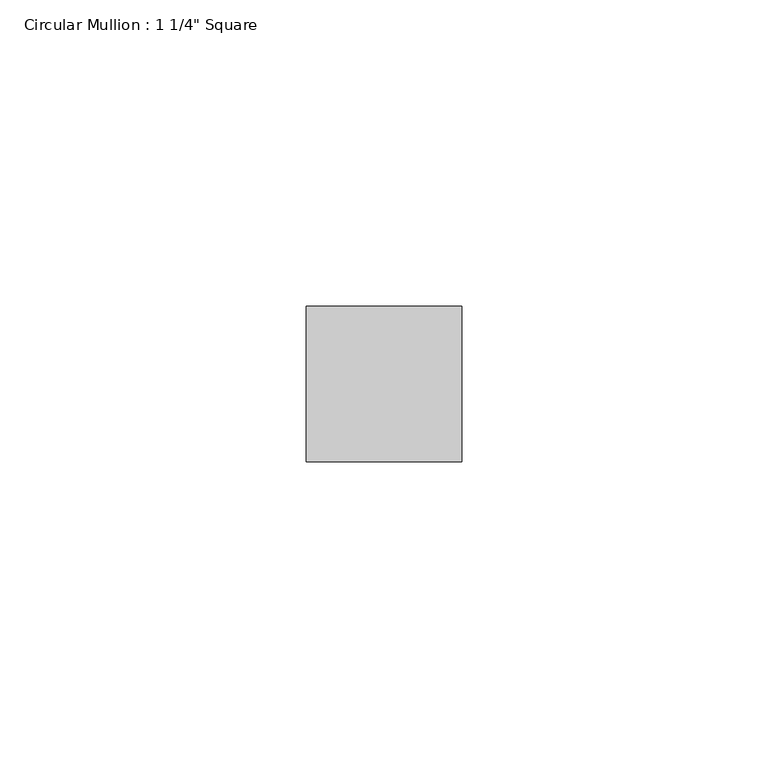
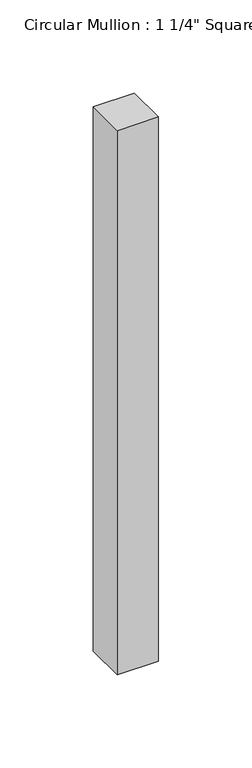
"""IFC4 building model written with IfcOpenShell, lengths in millimetres: member geometry."""

from ifc_helpers import new_model, si_unit, frame, origin, place, context, project, spatial, polyline, outline, extrude, source, transform, mapped, element, save


def member_8c9cbbb4(model_context):
    return source(origin(), model_context, "Body", "SweptSolid", [
        extrude(outline(polyline([(0.0, 12.7), (0.0, -12.7), (-25.4, -12.7), (-25.4, 12.7), (0.0, 12.7)])), frame((0.0, 0.0, -355.6000003), z_axis=(0.0, 0.0, 1.0), x_axis=(1.0, 0.0, 0.0)), (0.0, 0.0, 1.0), 355.6000003),
    ])


if __name__ == "__main__":
    model = new_model("IFC4")
    model_context = context("Model", 3, world=origin())
    ifc_project = project(units=[si_unit("LENGTHUNIT", "METRE", prefix="MILLI")], contexts=[model_context])
    site = spatial("IfcSite", under=ifc_project)
    building = spatial("IfcBuilding", under=site)
    placement = place(None, origin())
    member_shape = member_8c9cbbb4(model_context)
    element("IfcMember", 1, ObjectType="Circular Mullion : 1 1/4\" Square", at=placement, inside=building, context=model_context, shape_type="MappedRepresentation", body=[
        mapped(member_shape, transform((0.0, 0.0, 0.0), x_axis=(1.0, 0.0, 0.0), y_axis=(0.0, 1.0, 0.0), z_axis=(0.0, 0.0, 1.0))),
    ])
    save(model, "model.ifc")
